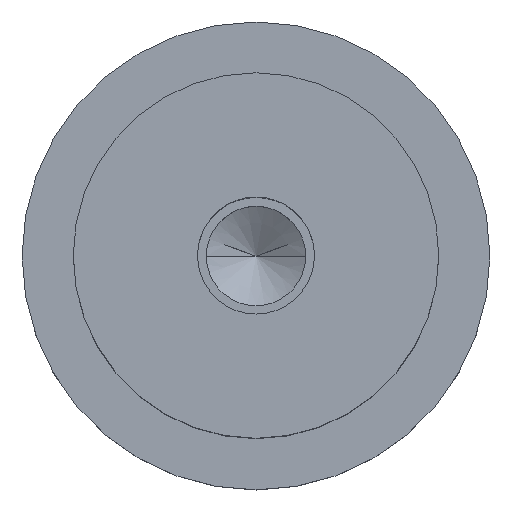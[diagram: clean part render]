
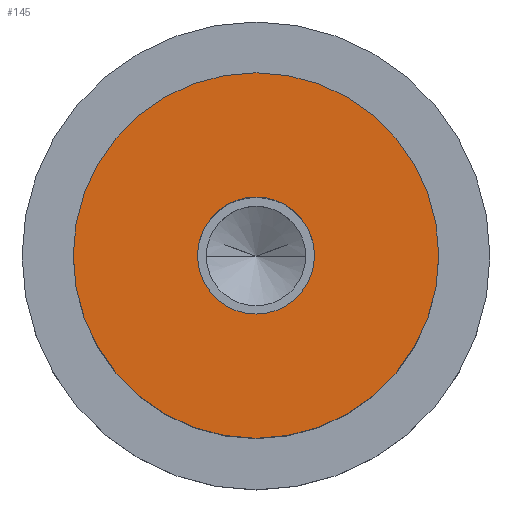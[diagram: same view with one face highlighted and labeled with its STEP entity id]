
A CAD part, top view. The second image highlights one B-rep face of the part: STEP entity #145.
In plain terms, the highlighted planar face has unit normal (0, 0, 1).
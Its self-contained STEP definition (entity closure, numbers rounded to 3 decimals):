
#100=PLANE('',#553);
#108=FACE_BOUND('',#205,.T.);
#109=FACE_BOUND('',#206,.T.);
#145=ADVANCED_FACE('',(#108,#109),#100,.T.);
#205=EDGE_LOOP('',(#299,#300));
#206=EDGE_LOOP('',(#301,#302));
#241=CIRCLE('',#547,4.);
#242=CIRCLE('',#549,4.);
#243=CIRCLE('',#551,12.5);
#244=CIRCLE('',#552,12.5);
#299=ORIENTED_EDGE('',*,*,#445,.F.);
#300=ORIENTED_EDGE('',*,*,#446,.F.);
#301=ORIENTED_EDGE('',*,*,#444,.T.);
#302=ORIENTED_EDGE('',*,*,#442,.T.);
#400=VERTEX_POINT('',#791);
#401=VERTEX_POINT('',#793);
#402=VERTEX_POINT('',#799);
#403=VERTEX_POINT('',#800);
#442=EDGE_CURVE('',#401,#400,#241,.T.);
#444=EDGE_CURVE('',#400,#401,#242,.T.);
#445=EDGE_CURVE('',#402,#403,#243,.T.);
#446=EDGE_CURVE('',#403,#402,#244,.T.);
#547=AXIS2_PLACEMENT_3D('',#792,#634,#635);
#549=AXIS2_PLACEMENT_3D('',#796,#639,#640);
#551=AXIS2_PLACEMENT_3D('',#798,#643,#644);
#552=AXIS2_PLACEMENT_3D('',#801,#645,#646);
#553=AXIS2_PLACEMENT_3D('',#802,#647,#648);
#634=DIRECTION('',(0.,0.,-1.));
#635=DIRECTION('',(0.,1.,0.));
#639=DIRECTION('',(0.,0.,-1.));
#640=DIRECTION('',(0.,-1.,0.));
#643=DIRECTION('',(0.,0.,-1.));
#644=DIRECTION('',(0.,1.,0.));
#645=DIRECTION('',(0.,0.,-1.));
#646=DIRECTION('',(0.,-1.,0.));
#647=DIRECTION('',(0.,0.,1.));
#648=DIRECTION('',(0.,-1.,0.));
#791=CARTESIAN_POINT('',(-4.,0.,16.));
#792=CARTESIAN_POINT('',(0.,0.,16.));
#793=CARTESIAN_POINT('',(4.,0.,16.));
#796=CARTESIAN_POINT('',(0.,0.,16.));
#798=CARTESIAN_POINT('',(0.,0.,16.));
#799=CARTESIAN_POINT('',(12.5,0.,16.));
#800=CARTESIAN_POINT('',(-12.5,0.,16.));
#801=CARTESIAN_POINT('',(0.,0.,16.));
#802=CARTESIAN_POINT('',(0.,0.,16.));
